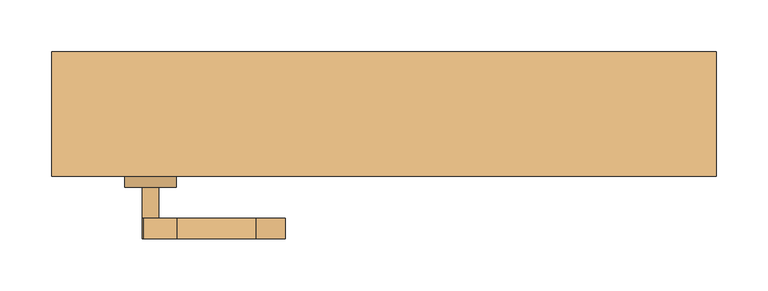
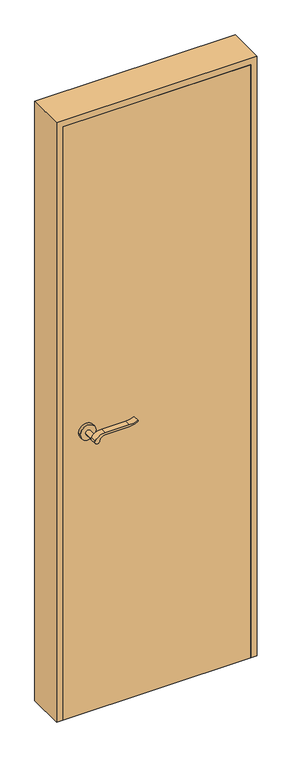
"""IFC4 building model written with IfcOpenShell, lengths in millimetres: door geometry, 木製_片開き_フラッシュ : WD-2 w600h2000."""

from ifc_helpers import new_model, si_unit, point, frame, frame_2d, origin, origin_with_axes, place, context, project, spatial, polyline, circle_curve, trimmed, segment, composite_curve, outline, extrude, source, transform, mapped, element, save


def door_c7dcdbed(model_context):
    return source(origin(), model_context, "Body", "SweptSolid", [
        extrude(outline(composite_curve([segment(trimmed(circle_curve(frame_2d((950.0, -225.0)), 8.0), [point((954.6523287, -231.5081363))], [point((950.0, -217.0))], False, "CARTESIAN"), True, "CONTINUOUS"), segment(trimmed(circle_curve(frame_2d((944.8738613, -199.6138099)), 18.1261387), [point((950.0, -217.0))], [point((963.0, -199.6138099))], True, "CARTESIAN"), True, "CONTINUOUS"), segment(polyline([(963.0, -199.6138099), (963.0, -123.3564091)]), True, "CONTINUOUS"), segment(trimmed(circle_curve(frame_2d((1022.2709207, -126.9396612)), 59.3791355), [point((963.0, -123.3564091))], [point((972.2135558, -95.0))], False, "CARTESIAN"), True, "CONTINUOUS"), segment(polyline([(972.2135558, -95.0), (975.0, -95.0)]), True, "CONTINUOUS"), segment(trimmed(circle_curve(frame_2d((1053.2850638, -123.4227909)), 83.2850902), [point((975.0, -95.0))], [point((970.0, -123.3564091))], True, "CARTESIAN"), True, "CONTINUOUS"), segment(polyline([(970.0, -123.3564091), (970.0, -199.6325667)]), True, "CONTINUOUS"), segment(trimmed(circle_curve(frame_2d((932.7555521, -201.3324871)), 37.2832219), [point((970.0, -199.6325667))], [point((954.6523287, -231.5081363))], False, "CARTESIAN"), True, "CONTINUOUS")], self_intersect=False)), frame((0.0, -120.0, 0.0), z_axis=(0.0, 1.0, 0.0), x_axis=(0.0, 0.0, 1.0)), (0.0, 0.0, 1.0), 20.0),
        extrude(outline(composite_curve([segment(trimmed(circle_curve(frame_2d((944.8738682, -199.6138122)), 18.1261318), [point((949.9999903, -217.0))], [point((963.0, -199.6138122))], True, "CARTESIAN"), True, "CONTINUOUS"), segment(polyline([(963.0, -199.6138122), (963.0, -123.3564091)]), True, "CONTINUOUS"), segment(trimmed(circle_curve(frame_2d((1022.2709207, -126.9396612)), 59.3791355), [point((963.0, -123.3564091))], [point((972.2135558, -95.0))], False, "CARTESIAN"), True, "CONTINUOUS"), segment(polyline([(972.2135558, -95.0), (975.0, -95.0)]), True, "CONTINUOUS"), segment(trimmed(circle_curve(frame_2d((1053.2850638, -123.4227909)), 83.2850902), [point((975.0, -95.0))], [point((970.0, -123.3564091))], True, "CARTESIAN"), True, "CONTINUOUS"), segment(polyline([(970.0, -123.3564091), (970.0, -199.6325667)]), True, "CONTINUOUS"), segment(trimmed(circle_curve(frame_2d((932.7555521, -201.3324871)), 37.2832219), [point((970.0, -199.6325667))], [point((954.6523287, -231.5081363))], False, "CARTESIAN"), True, "CONTINUOUS"), segment(trimmed(circle_curve(frame_2d((950.0, -225.0)), 8.0), [point((954.6523287, -231.5081363))], [point((949.9999903, -217.0))], False, "CARTESIAN"), True, "CONTINUOUS")], self_intersect=False)), frame((0.0, 10.0, 0.0), z_axis=(0.0, 1.0, 0.0), x_axis=(0.0, 0.0, 1.0)), (0.0, 0.0, 1.0), 20.0),
        extrude(outline(composite_curve([segment(trimmed(circle_curve(frame_2d((950.0, -225.0)), 8.0), [point((950.0, -233.0))], [point((950.0, -217.0))], False, "CARTESIAN"), True, "CONTINUOUS"), segment(trimmed(circle_curve(frame_2d((950.0, -225.0)), 8.0), [point((950.0, -217.0))], [point((950.0, -233.0))], False, "CARTESIAN"), True, "CONTINUOUS")], self_intersect=False)), frame((0.0, -100.0, 0.0), z_axis=(0.0, 1.0, 0.0), x_axis=(0.0, 0.0, 1.0)), (0.0, 0.0, 1.0), 30.0),
        extrude(outline(composite_curve([segment(trimmed(circle_curve(frame_2d((950.0, -225.0)), 8.0), [point((950.0, -233.0))], [point((950.0, -217.0))], False, "CARTESIAN"), True, "CONTINUOUS"), segment(trimmed(circle_curve(frame_2d((950.0, -225.0)), 8.0), [point((950.0, -217.0))], [point((950.0, -233.0))], False, "CARTESIAN"), True, "CONTINUOUS")], self_intersect=False)), frame((0.0, -20.0, 0.0), z_axis=(0.0, 1.0, 0.0), x_axis=(0.0, 0.0, 1.0)), (0.0, 0.0, 1.0), 30.0),
        extrude(outline(composite_curve([segment(trimmed(circle_curve(frame_2d((950.0, -225.0)), 25.0), [point((950.0, -250.0))], [point((950.0, -200.0))], False, "CARTESIAN"), True, "CONTINUOUS"), segment(trimmed(circle_curve(frame_2d((950.0, -225.0)), 25.0), [point((950.0, -200.0))], [point((950.0, -250.0))], False, "CARTESIAN"), True, "CONTINUOUS")], self_intersect=False)), frame((0.0, -70.0, 0.0), z_axis=(0.0, 1.0, 0.0), x_axis=(0.0, 0.0, 1.0)), (0.0, 0.0, 1.0), 10.0),
        extrude(outline(composite_curve([segment(trimmed(circle_curve(frame_2d((950.0, -225.0)), 25.0), [point((950.0, -250.0))], [point((950.0, -200.0))], False, "CARTESIAN"), True, "CONTINUOUS"), segment(trimmed(circle_curve(frame_2d((950.0, -225.0)), 25.0), [point((950.0, -200.0))], [point((950.0, -250.0))], False, "CARTESIAN"), True, "CONTINUOUS")], self_intersect=False)), frame((0.0, -30.0, 0.0), z_axis=(0.0, 1.0, 0.0), x_axis=(0.0, 0.0, 1.0)), (0.0, 0.0, 1.0), 10.0),
        extrude(outline(polyline([(2020.0, -320.0), (0.0, -320.0), (0.0, -300.0), (2000.0, -300.0), (2000.0, 300.0), (0.0, 300.0), (0.0, 320.0), (2020.0, 320.0), (2020.0, -320.0)])), frame((0.0, -60.0, 0.0), z_axis=(0.0, 1.0, 0.0), x_axis=(0.0, 0.0, 1.0)), (0.0, 0.0, 1.0), 120.0),
        extrude(outline(polyline([(300.0, -30.0), (300.0, -60.0), (-300.0, -60.0), (-300.0, -30.0), (300.0, -30.0)])), origin_with_axes(), (0.0, 0.0, 1.0), 2000.0),
    ])


if __name__ == "__main__":
    model = new_model("IFC4")
    model_context = context("Model", 3, world=origin())
    ifc_project = project(units=[si_unit("LENGTHUNIT", "METRE", prefix="MILLI")], contexts=[model_context])
    site = spatial("IfcSite", under=ifc_project)
    building = spatial("IfcBuilding", under=site)
    placement = place(None, origin())
    door_shape = door_c7dcdbed(model_context)
    element("IfcDoor", 1, ObjectType="木製_片開き_フラッシュ : WD-2 w600h2000", at=placement, inside=building, context=model_context, shape_type="MappedRepresentation", body=[
        mapped(door_shape, transform((0.0, 0.0, 0.0), x_axis=(1.0, 0.0, 0.0), y_axis=(0.0, 1.0, 0.0), z_axis=(0.0, 0.0, 1.0))),
    ])
    save(model, "model.ifc")
